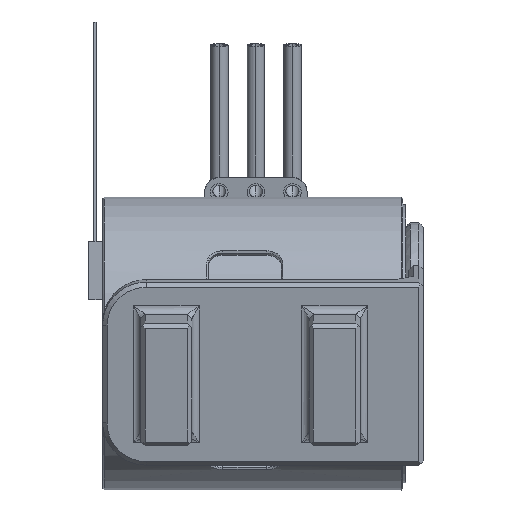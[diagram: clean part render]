
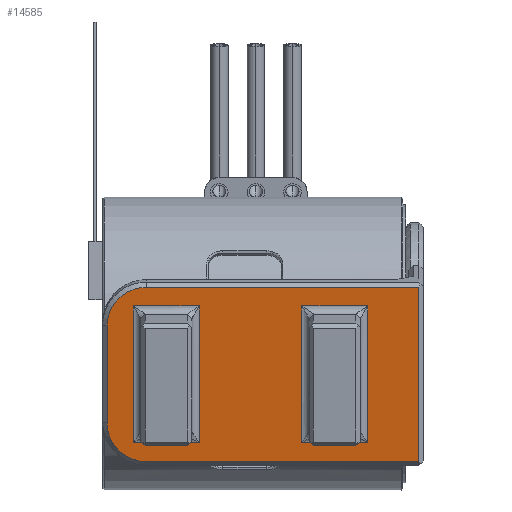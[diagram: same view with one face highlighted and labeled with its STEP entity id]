
A CAD part, left-side view. The second image highlights one B-rep face of the part: STEP entity #14585.
In plain terms, the highlighted planar face has unit normal (-0.985, 0, -0.174) as drawn and (0, 1, 0) by its records, which use the part's own axes.
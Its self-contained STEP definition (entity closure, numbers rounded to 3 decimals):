
#10609=DIRECTION('',(0.,0.,-1.));
#10610=VECTOR('',#10609,18.6);
#10611=CARTESIAN_POINT('',(7.385,-16.748,
42.9));
#10612=LINE('',#10611,#10610);
#10685=DIRECTION('',(0.,0.,1.));
#10686=VECTOR('',#10685,18.6);
#10687=CARTESIAN_POINT('',(-4.715,-16.748,
24.301));
#10688=LINE('',#10687,#10686);
#10697=CARTESIAN_POINT('',(4.685,-16.748,42.901));
#10698=DIRECTION('',(0.,-1.,0.));
#10699=DIRECTION('',(1.,0.,0.));
#10700=AXIS2_PLACEMENT_3D('',#10697,#10698,#10699);
#10702=CARTESIAN_POINT('',(-2.015,-16.748,42.901));
#10703=DIRECTION('',(0.,-1.,0.));
#10704=DIRECTION('',(0.,0.,1.));
#10705=AXIS2_PLACEMENT_3D('',#10702,#10703,#10704);
#10715=DIRECTION('',(-1.,0.,0.));
#10716=VECTOR('',#10715,12.1);
#10717=CARTESIAN_POINT('',(7.385,-16.748,
24.301));
#10718=LINE('',#10717,#10716);
#12251=DIRECTION('',(1.,0.,0.));
#12252=VECTOR('',#12251,6.7);
#12253=CARTESIAN_POINT('',(-2.015,-16.748,
45.6));
#12254=LINE('',#12253,#12252);
#12279=DIRECTION('',(0.,0.,-1.));
#12280=VECTOR('',#12279,4.5);
#12281=CARTESIAN_POINT('',(-3.415,-16.748,32.301));
#12282=LINE('',#12281,#12280);
#12319=DIRECTION('',(1.,0.,0.));
#12320=VECTOR('',#12319,9.5);
#12321=CARTESIAN_POINT('',(-3.415,-16.748,27.801));
#12322=LINE('',#12321,#12320);
#12363=DIRECTION('',(0.,0.,1.));
#12364=VECTOR('',#12363,4.5);
#12365=CARTESIAN_POINT('',(6.085,-16.748,27.801));
#12366=LINE('',#12365,#12364);
#12427=DIRECTION('',(-1.,0.,0.));
#12428=VECTOR('',#12427,9.5);
#12429=CARTESIAN_POINT('',(6.085,-16.748,32.301));
#12430=LINE('',#12429,#12428);
#12781=DIRECTION('',(0.,0.,1.));
#12782=VECTOR('',#12781,4.5);
#12783=CARTESIAN_POINT('',(6.085,-16.748,39.301));
#12784=LINE('',#12783,#12782);
#12805=DIRECTION('',(-1.,0.,0.));
#12806=VECTOR('',#12805,9.5);
#12807=CARTESIAN_POINT('',(6.085,-16.748,43.801));
#12808=LINE('',#12807,#12806);
#12849=DIRECTION('',(0.,0.,-1.));
#12850=VECTOR('',#12849,4.5);
#12851=CARTESIAN_POINT('',(-3.415,-16.748,43.801));
#12852=LINE('',#12851,#12850);
#12893=DIRECTION('',(1.,0.,0.));
#12894=VECTOR('',#12893,9.5);
#12895=CARTESIAN_POINT('',(-3.415,-16.748,39.301));
#12896=LINE('',#12895,#12894);
#13332=CARTESIAN_POINT('',(7.385,-16.748,
42.9));
#13333=VERTEX_POINT('',#13332);
#13334=CARTESIAN_POINT('',(7.385,-16.748,
24.301));
#13335=VERTEX_POINT('',#13334);
#13338=CARTESIAN_POINT('',(4.685,-16.748,
45.6));
#13339=VERTEX_POINT('',#13338);
#13348=CARTESIAN_POINT('',(-4.715,-16.748,
42.9));
#13349=VERTEX_POINT('',#13348);
#13350=CARTESIAN_POINT('',(-2.015,-16.748,45.601));
#13351=VERTEX_POINT('',#13350);
#13352=CARTESIAN_POINT('',(-4.715,-16.748,
24.301));
#13353=VERTEX_POINT('',#13352);
#13358=CARTESIAN_POINT('',(-3.415,-16.748,32.301));
#13359=CARTESIAN_POINT('',(-3.415,-16.748,27.801));
#13360=VERTEX_POINT('',#13358);
#13361=VERTEX_POINT('',#13359);
#13362=CARTESIAN_POINT('',(6.085,-16.748,32.301));
#13363=VERTEX_POINT('',#13362);
#13364=CARTESIAN_POINT('',(6.085,-16.748,27.801));
#13365=VERTEX_POINT('',#13364);
#13366=CARTESIAN_POINT('',(6.085,-16.748,39.301));
#13367=CARTESIAN_POINT('',(6.085,-16.748,43.801));
#13368=VERTEX_POINT('',#13366);
#13369=VERTEX_POINT('',#13367);
#13370=CARTESIAN_POINT('',(-3.415,-16.748,39.301));
#13371=VERTEX_POINT('',#13370);
#13372=CARTESIAN_POINT('',(-3.415,-16.748,43.801));
#13373=VERTEX_POINT('',#13372);
#14550=CARTESIAN_POINT('',(0.,-16.748,0.));
#14551=DIRECTION('',(0.,1.,0.));
#14552=DIRECTION('',(-1.,0.,0.));
#14553=AXIS2_PLACEMENT_3D('',#14550,#14551,#14552);
#14554=PLANE('',#14553);
#14556=ORIENTED_EDGE('',*,*,#14555,.F.);
#14557=ORIENTED_EDGE('',*,*,#14427,.F.);
#14558=ORIENTED_EDGE('',*,*,#14443,.T.);
#14560=ORIENTED_EDGE('',*,*,#14559,.F.);
#14561=ORIENTED_EDGE('',*,*,#14526,.T.);
#14562=ORIENTED_EDGE('',*,*,#14538,.F.);
#14563=EDGE_LOOP('',(#14556,#14557,#14558,#14560,#14561,#14562));
#14564=FACE_OUTER_BOUND('',#14563,.F.);
#14566=ORIENTED_EDGE('',*,*,#14565,.F.);
#14568=ORIENTED_EDGE('',*,*,#14567,.F.);
#14570=ORIENTED_EDGE('',*,*,#14569,.F.);
#14572=ORIENTED_EDGE('',*,*,#14571,.F.);
#14573=EDGE_LOOP('',(#14566,#14568,#14570,#14572));
#14574=FACE_BOUND('',#14573,.F.);
#14576=ORIENTED_EDGE('',*,*,#14575,.F.);
#14578=ORIENTED_EDGE('',*,*,#14577,.F.);
#14580=ORIENTED_EDGE('',*,*,#14579,.F.);
#14582=ORIENTED_EDGE('',*,*,#14581,.F.);
#14583=EDGE_LOOP('',(#14576,#14578,#14580,#14582));
#14584=FACE_BOUND('',#14583,.F.);
#14585=ADVANCED_FACE('',(#14564,#14574,#14584),#14554,.T.);
#10701=CIRCLE('',#10700,2.7);
#10706=CIRCLE('',#10705,2.7);
#14427=EDGE_CURVE('',#13333,#13335,#10612,.T.);
#14443=EDGE_CURVE('',#13333,#13339,#10701,.T.);
#14526=EDGE_CURVE('',#13351,#13349,#10706,.T.);
#14538=EDGE_CURVE('',#13353,#13349,#10688,.T.);
#14555=EDGE_CURVE('',#13335,#13353,#10718,.T.);
#14559=EDGE_CURVE('',#13351,#13339,#12254,.T.);
#14565=EDGE_CURVE('',#13360,#13361,#12282,.T.);
#14567=EDGE_CURVE('',#13363,#13360,#12430,.T.);
#14569=EDGE_CURVE('',#13365,#13363,#12366,.T.);
#14571=EDGE_CURVE('',#13361,#13365,#12322,.T.);
#14575=EDGE_CURVE('',#13368,#13369,#12784,.T.);
#14577=EDGE_CURVE('',#13371,#13368,#12896,.T.);
#14579=EDGE_CURVE('',#13373,#13371,#12852,.T.);
#14581=EDGE_CURVE('',#13369,#13373,#12808,.T.);
